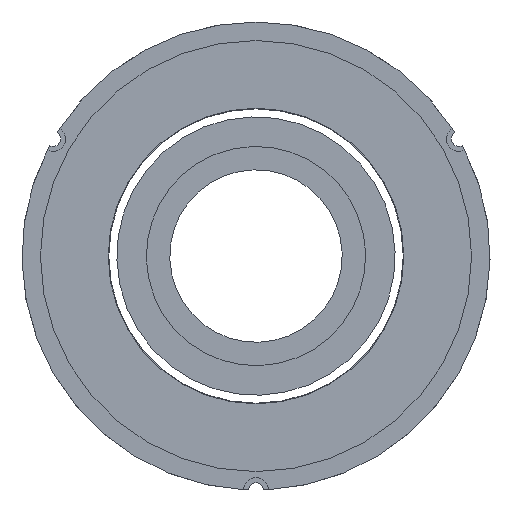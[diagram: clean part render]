
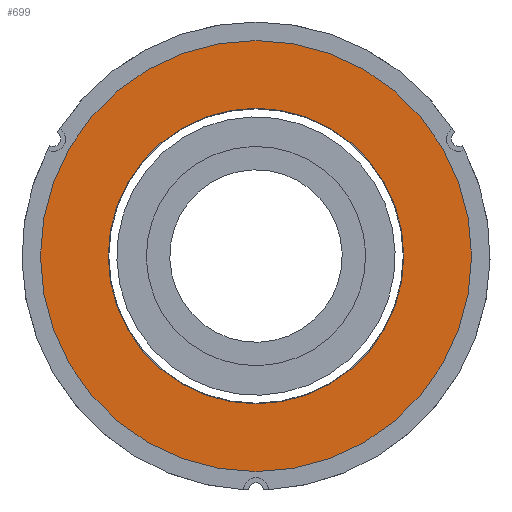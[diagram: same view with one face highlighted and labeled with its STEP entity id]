
A CAD part, front view. The second image highlights one B-rep face of the part: STEP entity #699.
In plain terms, the highlighted planar face has unit normal (0, -1, 0).
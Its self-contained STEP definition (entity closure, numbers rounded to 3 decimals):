
#32 = VERTEX_POINT ( 'NONE', #1519 ) ;
#46 = DIRECTION ( 'NONE',  ( 0., -1., 0. ) ) ;
#171 = DIRECTION ( 'NONE',  ( 0., -1., 0. ) ) ;
#236 = AXIS2_PLACEMENT_3D ( 'NONE', #776, #2315, #1353 ) ;
#244 = ORIENTED_EDGE ( 'NONE', *, *, #1731, .F. ) ;
#288 = CIRCLE ( 'NONE', #959, 6. ) ;
#336 = CARTESIAN_POINT ( 'NONE',  ( 0., -1.55, 8.75 ) ) ;
#407 = PLANE ( 'NONE',  #2319 ) ;
#478 = CIRCLE ( 'NONE', #2110, 6. ) ;
#486 = VERTEX_POINT ( 'NONE', #495 ) ;
#495 = CARTESIAN_POINT ( 'NONE',  ( 0., -1.55, -8.75 ) ) ;
#575 = FACE_OUTER_BOUND ( 'NONE', #1431, .T. ) ;
#598 = DIRECTION ( 'NONE',  ( 0., 0., -1. ) ) ;
#612 = DIRECTION ( 'NONE',  ( 0., 0., -1. ) ) ;
#699 = ADVANCED_FACE ( 'NONE', ( #575, #1347 ), #407, .T. ) ;
#707 = AXIS2_PLACEMENT_3D ( 'NONE', #1309, #171, #929 ) ;
#776 = CARTESIAN_POINT ( 'NONE',  ( 0., -1.55, 0. ) ) ;
#791 = ORIENTED_EDGE ( 'NONE', *, *, #2464, .T. ) ;
#835 = CARTESIAN_POINT ( 'NONE',  ( 0., -1.55, 0. ) ) ;
#851 = EDGE_CURVE ( 'NONE', #32, #1288, #288, .T. ) ;
#880 = CARTESIAN_POINT ( 'NONE',  ( 0., -1.55, 6. ) ) ;
#929 = DIRECTION ( 'NONE',  ( 0., 0., -1. ) ) ;
#959 = AXIS2_PLACEMENT_3D ( 'NONE', #835, #46, #612 ) ;
#1105 = DIRECTION ( 'NONE',  ( 0., 0., -1. ) ) ;
#1133 = DIRECTION ( 'NONE',  ( 0., -1., 0. ) ) ;
#1288 = VERTEX_POINT ( 'NONE', #880 ) ;
#1309 = CARTESIAN_POINT ( 'NONE',  ( 0., -1.55, 0. ) ) ;
#1347 = FACE_BOUND ( 'NONE', #1563, .T. ) ;
#1353 = DIRECTION ( 'NONE',  ( 0., 0., -1. ) ) ;
#1372 = EDGE_CURVE ( 'NONE', #486, #1938, #1445, .T. ) ;
#1386 = CIRCLE ( 'NONE', #707, 8.75 ) ;
#1431 = EDGE_LOOP ( 'NONE', ( #791, #1716 ) ) ;
#1445 = CIRCLE ( 'NONE', #236, 8.75 ) ;
#1519 = CARTESIAN_POINT ( 'NONE',  ( 0., -1.55, -6. ) ) ;
#1563 = EDGE_LOOP ( 'NONE', ( #244, #1723 ) ) ;
#1716 = ORIENTED_EDGE ( 'NONE', *, *, #1372, .T. ) ;
#1723 = ORIENTED_EDGE ( 'NONE', *, *, #851, .F. ) ;
#1731 = EDGE_CURVE ( 'NONE', #1288, #32, #478, .T. ) ;
#1918 = CARTESIAN_POINT ( 'NONE',  ( 0., -1.55, 0. ) ) ;
#1938 = VERTEX_POINT ( 'NONE', #336 ) ;
#2057 = DIRECTION ( 'NONE',  ( 0., -1., 0. ) ) ;
#2110 = AXIS2_PLACEMENT_3D ( 'NONE', #2243, #2057, #1105 ) ;
#2243 = CARTESIAN_POINT ( 'NONE',  ( 0., -1.55, 0. ) ) ;
#2315 = DIRECTION ( 'NONE',  ( 0., -1., 0. ) ) ;
#2319 = AXIS2_PLACEMENT_3D ( 'NONE', #1918, #1133, #598 ) ;
#2464 = EDGE_CURVE ( 'NONE', #1938, #486, #1386, .T. ) ;
